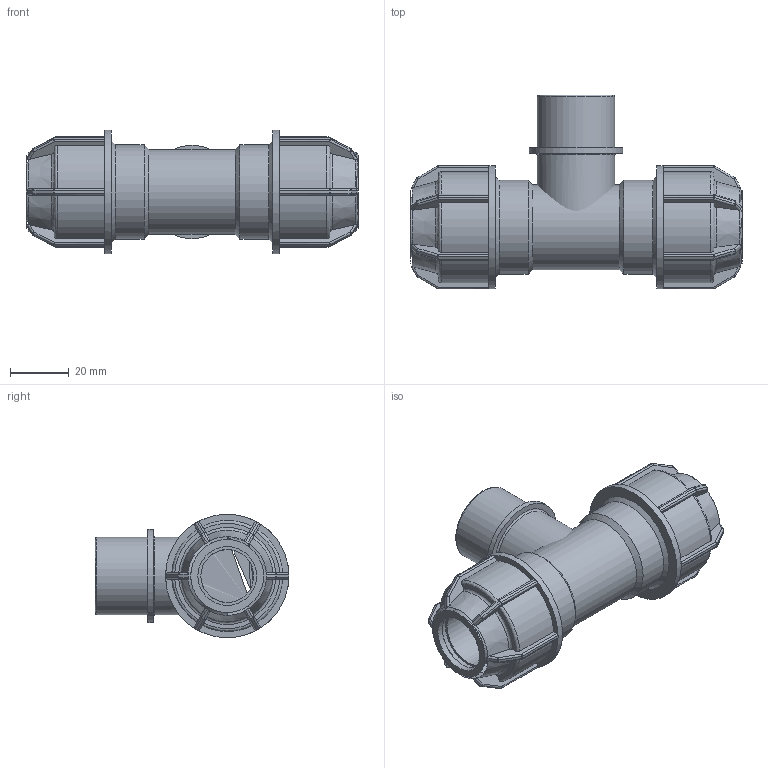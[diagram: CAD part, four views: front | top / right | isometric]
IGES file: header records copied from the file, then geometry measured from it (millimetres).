
Global section: file name: 148400020007.ipt; native system: Autodesk Inventor 2015; preprocessor: unknown; author: KIM; date: 20180409.131228; units: millimetre
Bounding box: 113 x 66 x 42 mm (x, y, z)
Volume: 75156.2 mm3; surface area: 29563.9 mm2
Topology: 2 solids, 2 shells, 415 faces, 1000 edges, 586 vertices
Faces by surface type: plane 197, cylinder 116, sphere 48, revolution 38, cone 16
Full cylindrical faces by diameter (mm): 26.441 x2, 28.8 x1, 31.729 x1, 32 x2, 42 x2
